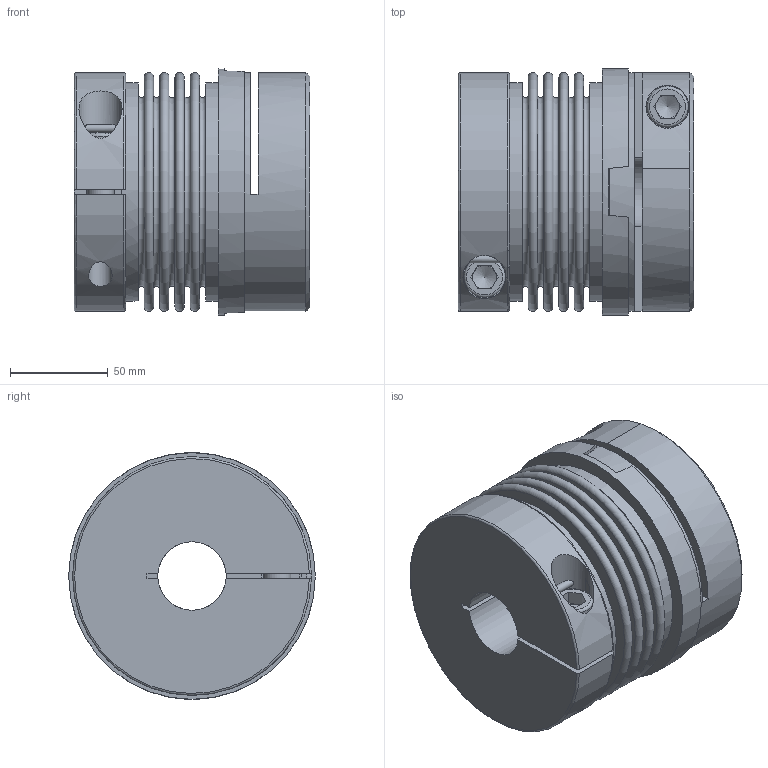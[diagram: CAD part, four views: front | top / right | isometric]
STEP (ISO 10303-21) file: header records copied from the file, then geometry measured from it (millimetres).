
FILE_DESCRIPTION( ( 'Unknown' ), '1' );
FILE_NAME( 'F:/JAKOB-STEP+IGES-Dateien/STEP-Dateien/KPP/KPP 600.stp', 'Unknown', ( 'Unknown' ), ( 'Unknown' ), 'PSStep 10.1', 'Unknown', ' ' );
FILE_SCHEMA( ( 'AUTOMOTIVE_DESIGN { 1 0 10303 214 1 1 1 1 }' ) );
Length unit declared in the file: millimetre
Products named in the file (1): KT102045
Bounding box: 120.5 x 126 x 126 mm (x, y, z)
Volume: 842861.4 mm3; surface area: 215015.8 mm2
Topology: 1 solids, 1 shells, 147 faces, 342 edges, 222 vertices
Faces by surface type: plane 93, cylinder 25, torus 24, cone 5
Full cylindrical faces by diameter (mm): 12 x2, 14 x2, 15 x2, 21 x2, 22 x2, 35 x1, 71 x1, 111.6 x2, 122 x1, 126 x1
Entity records: 5526 total; most frequent: CARTESIAN_POINT 1141, DIRECTION 700, ORIENTED_EDGE 570, EDGE_CURVE 285, AXIS2_PLACEMENT_3D 283, EDGE_LOOP 219, VERTEX_POINT 206, FACE_OUTER_BOUND 182
